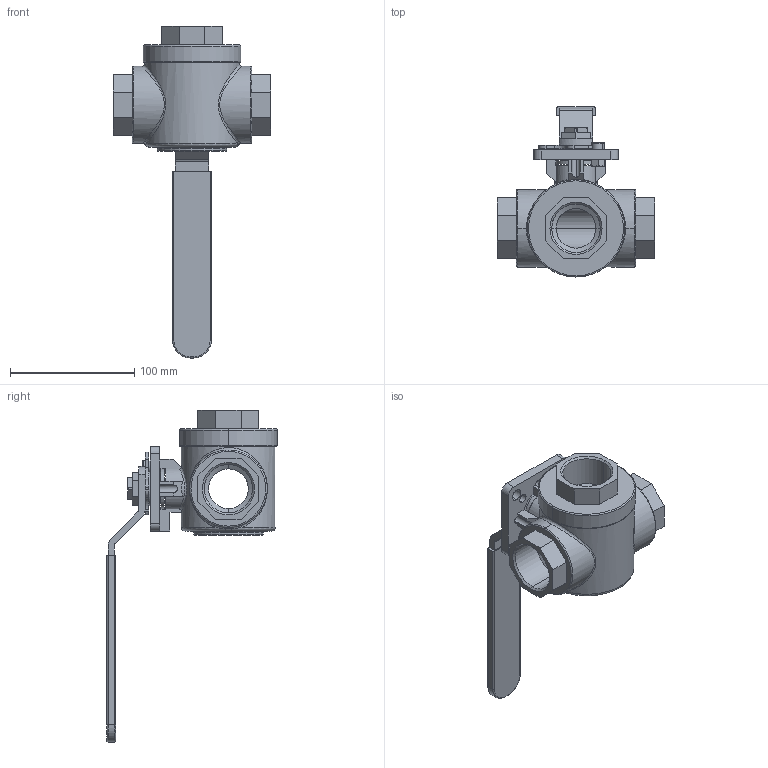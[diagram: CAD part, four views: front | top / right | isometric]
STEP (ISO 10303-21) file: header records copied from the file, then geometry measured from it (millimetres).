
FILE_DESCRIPTION (( 'STEP AP214' ), '1' );
FILE_NAME ('S57D DN32 G1 1_4 HB FB.STEP', '2013-03-25T12:38:38', ( 'Jan' ), ( '' ), 'SwSTEP 2.0', 'SolidWorks 2011', '' );
FILE_SCHEMA (( 'AUTOMOTIVE_DESIGN' ));
Length unit declared in the file: millimetre
Products named in the file (5): hex nut style 1 gradeab_din_Hexagon Nut ISO 4032 - M6 - D - N; socket head cap screw_din_DIN 912 M6 x 12 --- 12N; S57D Hendel DN32 FB; S57D DN32-G1 1_4 FB; S57D DN32 G1 1_4 HB FB
Assembly tree (4 placements, depth 2):
  S57D DN32 G1 1_4 HB FB
    S57D Hendel DN32 FB
    S57D DN32-G1 1_4 FB
    socket head cap screw_din_DIN 912 M6 x 12 --- 12N
    hex nut style 1 gradeab_din_Hexagon Nut ISO 4032 - M6 - D - N
Bounding box: 126.7 x 136.95 x 267.1 mm (x, y, z)
Volume: 483251 mm3; surface area: 95683.5 mm2
Topology: 4 solids, 4 shells, 352 faces, 900 edges, 559 vertices
Faces by surface type: plane 189, cylinder 98, cone 32, torus 22, bspline 11
Entity records: 13287 total; most frequent: CARTESIAN_POINT 4126, DIRECTION 1851, ORIENTED_EDGE 1796, EDGE_CURVE 898, AXIS2_PLACEMENT_3D 670, VERTEX_POINT 559, LINE 511, VECTOR 511
